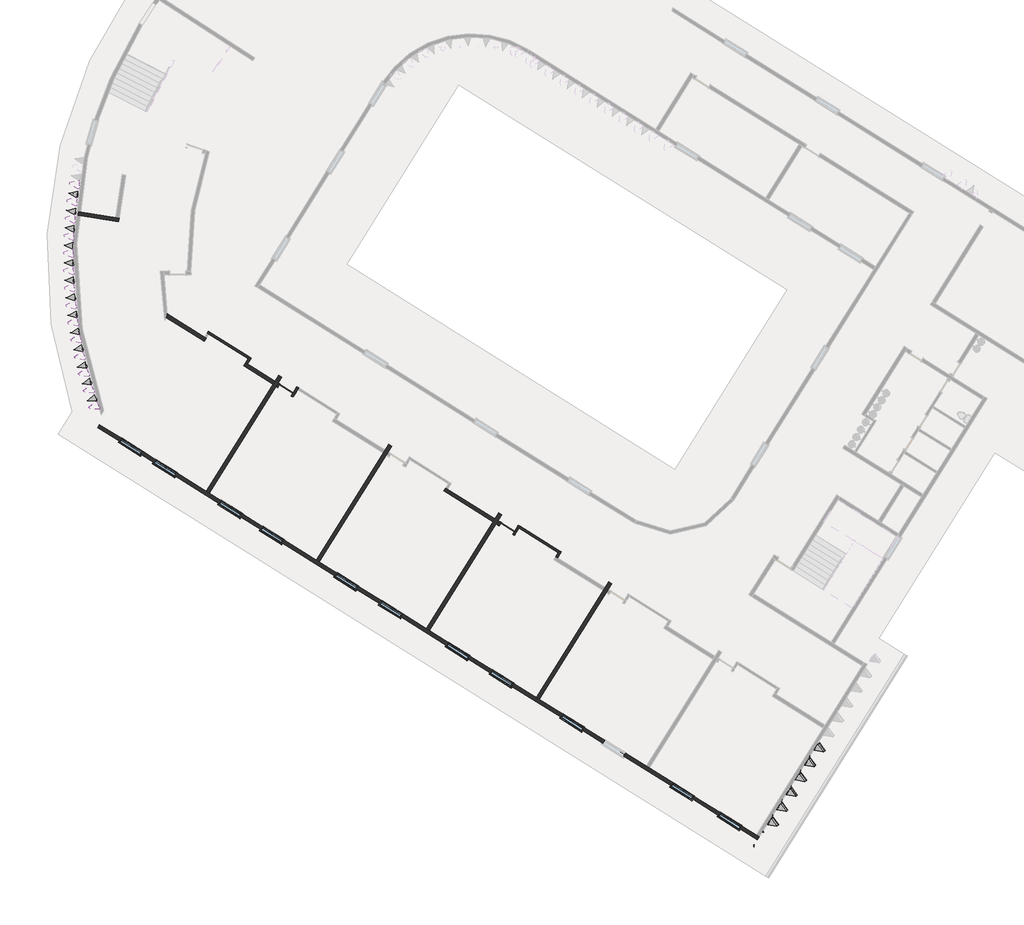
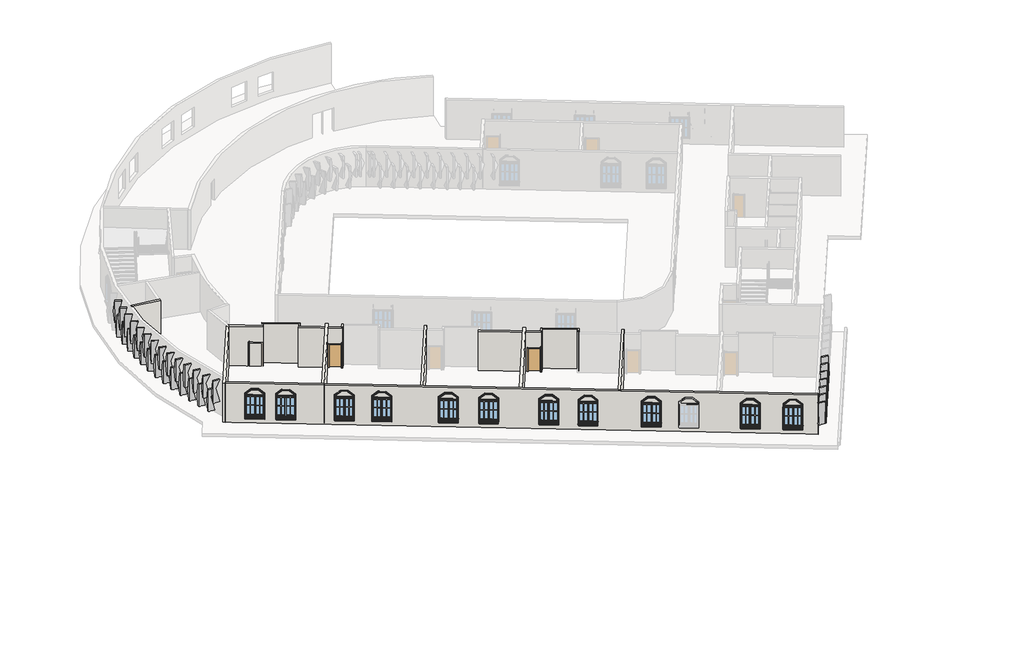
# One storey, part 1 of 7: 40 plates, 17 walls, 11 windows, 2 doors.
"""IFC4 building model written with IfcOpenShell, lengths in millimetres."""

from ifc_helpers import new_model, si_unit, frame, origin, place, context, project, spatial, polyline, circle_curve, outline, extrude, faceted_brep, transform, mapped, element, save
from ifc_brep_helpers import plane_surface, cylinder_surface, revolved_surface, advanced_brep
from components import m_single_flush_0915_x_2134mm_727434cd, plate_91021fb5, plate_51c6a2b6, m_window_casement_double_1400_x_1800mm_877d247a

model = new_model("IFC4")

# Units and contexts
model_context = context("Model", 3, world=origin())
ifc_project = project(units=[si_unit("LENGTHUNIT", "METRE", prefix="MILLI")], contexts=[model_context])

# Site, building, storey
site = spatial("IfcSite", under=ifc_project)
building = spatial("IfcBuilding", under=site)
storey = spatial("IfcBuildingStorey", under=building, Name="\u200fطبقه اول", Elevation=3600.0)

# Doors
placement = place(None, origin())
m_single_flush_0915_x_2134mm_shape = m_single_flush_0915_x_2134mm_727434cd(model_context)
element("IfcDoor", 1, ObjectType="M_Single-Flush : 0915 x 2134mm", at=placement, inside=storey, context=model_context, shape_type="MappedRepresentation", body=[
    mapped(m_single_flush_0915_x_2134mm_shape, transform((27835.8534979, -49819.8419864, 3600.0), x_axis=(-0.8480480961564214, 0.5299192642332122, 0.0), y_axis=(-0.5299192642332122, -0.8480480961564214, 0.0), z_axis=(0.0, 0.0, 1.0))),
])
element("IfcDoor", 2, ObjectType="M_Single-Flush : 0915 x 2134mm", at=placement, inside=storey, context=model_context, shape_type="MappedRepresentation", body=[
    mapped(m_single_flush_0915_x_2134mm_shape, transform((15199.9368652, -41924.0449493, 3600.0), x_axis=(-0.8480480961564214, 0.5299192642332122, 0.0), y_axis=(-0.5299192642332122, -0.8480480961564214, 0.0), z_axis=(0.0, 0.0, 1.0))),
])

# Plates
plate_shape = plate_91021fb5(model_context)
element("IfcPlate", 3, ObjectType="مدل پارامتریک کصینوس دار : مدل پارامتریک کصینوس دار", at=placement, inside=storey, context=model_context, shape_type="MappedRepresentation", body=[
    mapped(plate_shape, transform((41918.8346229, -68935.4876072, 1755.2367897), x_axis=(0.0, 0.0, 1.0), y_axis=(0.5299192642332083, 0.8480480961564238, 0.0), z_axis=(-0.8480480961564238, 0.5299192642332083, 0.0))),
])
element("IfcPlate", 4, ObjectType="مدل پارامتریک کصینوس دار : مدل پارامتریک کصینوس دار", at=placement, inside=storey, context=model_context, shape_type="MappedRepresentation", body=[
    mapped(plate_shape, transform((42183.794255, -68511.4635591, 755.2367897), x_axis=(0.0, 0.0, 1.0), y_axis=(0.5299192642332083, 0.8480480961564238, 0.0), z_axis=(-0.8480480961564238, 0.5299192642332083, 0.0))),
])
element("IfcPlate", 5, ObjectType="مدل پارامتریک کصینوس دار : مدل پارامتریک کصینوس دار", at=placement, inside=storey, context=model_context, shape_type="MappedRepresentation", body=[
    mapped(plate_shape, transform((42448.7538871, -68087.439511, 1755.2367897), x_axis=(0.0, 0.0, 1.0), y_axis=(0.5299192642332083, 0.8480480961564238, 0.0), z_axis=(-0.8480480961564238, 0.5299192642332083, 0.0))),
])
element("IfcPlate", 6, ObjectType="مدل پارامتریک کصینوس دار : مدل پارامتریک کصینوس دار", at=placement, inside=storey, context=model_context, shape_type="MappedRepresentation", body=[
    mapped(plate_shape, transform((42713.7135192, -67663.4154629, 755.2367897), x_axis=(0.0, 0.0, 1.0), y_axis=(0.5299192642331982, 0.8480480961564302, 0.0), z_axis=(-0.8480480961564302, 0.5299192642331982, 0.0))),
])
element("IfcPlate", 7, ObjectType="مدل پارامتریک کصینوس دار : مدل پارامتریک کصینوس دار", at=placement, inside=storey, context=model_context, shape_type="MappedRepresentation", body=[
    mapped(plate_shape, transform((42978.6731514, -67239.3914149, 1755.2367897), x_axis=(0.0, 0.0, 1.0), y_axis=(0.5299192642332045, 0.8480480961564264, 0.0), z_axis=(-0.8480480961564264, 0.5299192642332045, 0.0))),
])
element("IfcPlate", 8, ObjectType="مدل پارامتریک کصینوس دار : مدل پارامتریک کصینوس دار", at=placement, inside=storey, context=model_context, shape_type="MappedRepresentation", body=[
    mapped(plate_shape, transform((43243.6327835, -66815.3673668, 755.2367897), x_axis=(0.0, 0.0, 1.0), y_axis=(0.5299192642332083, 0.8480480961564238, 0.0), z_axis=(-0.8480480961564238, 0.5299192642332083, 0.0))),
])
element("IfcPlate", 9, ObjectType="مدل پارامتریک کصینوس دار : مدل پارامتریک کصینوس دار", at=placement, inside=storey, context=model_context, shape_type="MappedRepresentation", body=[
    mapped(plate_shape, transform((43508.5924156, -66391.3433187, 1755.2367897), x_axis=(0.0, 0.0, 1.0), y_axis=(0.5299192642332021, 0.8480480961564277, 0.0), z_axis=(-0.8480480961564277, 0.5299192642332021, 0.0))),
])
element("IfcPlate", 10, ObjectType="مدل پارامتریک کصینوس دار : مدل پارامتریک کصینوس دار", at=placement, inside=storey, context=model_context, shape_type="MappedRepresentation", body=[
    mapped(plate_shape, transform((43773.5520477, -65967.3192706, 755.2367897), x_axis=(0.0, 0.0, 1.0), y_axis=(0.5299192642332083, 0.8480480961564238, 0.0), z_axis=(-0.8480480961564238, 0.5299192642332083, 0.0))),
])
element("IfcPlate", 11, ObjectType="مدل پارامتریک کصینوس دار : مدل پارامتریک کصینوس دار", at=placement, inside=storey, context=model_context, shape_type="MappedRepresentation", body=[
    mapped(plate_shape, transform((44038.5116798, -65543.2952225, 1755.2367897), x_axis=(0.0, 0.0, 1.0), y_axis=(0.5299192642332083, 0.8480480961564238, 0.0), z_axis=(-0.8480480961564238, 0.5299192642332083, 0.0))),
])
element("IfcPlate", 12, ObjectType="مدل پارامتریک کصینوس دار : مدل پارامتریک کصینوس دار", at=placement, inside=storey, context=model_context, shape_type="MappedRepresentation", body=[
    mapped(plate_shape, transform((44303.4713119, -65119.2711745, 755.2367897), x_axis=(0.0, 0.0, 1.0), y_axis=(0.5299192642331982, 0.8480480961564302, 0.0), z_axis=(-0.8480480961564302, 0.5299192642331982, 0.0))),
])
element("IfcPlate", 13, ObjectType="مدل پارامتریک کصینوس دار : مدل پارامتریک کصینوس دار", at=placement, inside=storey, context=model_context, shape_type="MappedRepresentation", body=[
    mapped(plate_shape, transform((44568.4309441, -64695.2471264, 1755.2367897), x_axis=(0.0, 0.0, 1.0), y_axis=(0.5299192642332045, 0.8480480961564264, 0.0), z_axis=(-0.8480480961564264, 0.5299192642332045, 0.0))),
])
element("IfcPlate", 14, ObjectType="مدل پارامتریک کصینوس دار : مدل پارامتریک کصینوس دار", at=placement, inside=storey, context=model_context, shape_type="MappedRepresentation", body=[
    mapped(plate_shape, transform((44833.3905762, -64271.2230783, 755.2367897), x_axis=(0.0, 0.0, 1.0), y_axis=(0.5299192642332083, 0.8480480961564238, 0.0), z_axis=(-0.8480480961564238, 0.5299192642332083, 0.0))),
])
element("IfcPlate", 15, ObjectType="مدل پارامتریک کصینوس دار : مدل پارامتریک کصینوس دار", at=placement, inside=storey, context=model_context, shape_type="MappedRepresentation", body=[
    mapped(plate_shape, transform((41388.9153587, -69783.5357033, 1755.2367897), x_axis=(0.0, 0.0, 1.0), y_axis=(0.5299192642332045, 0.8480480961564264, 0.0), z_axis=(-0.8480480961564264, 0.5299192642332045, 0.0))),
])
plate_2_shape = plate_51c6a2b6(model_context)
element("IfcPlate", 16, ObjectType="مدل پارامتریک کصینوس دار : مدل پارامتریک کصینوس دار", at=placement, inside=storey, context=model_context, shape_type="MappedRepresentation", body=[
    mapped(plate_2_shape, transform((4717.597283, -44893.7210796, 1850.0), x_axis=(0.0, 0.0, 1.0), y_axis=(0.33370881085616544, -0.9426762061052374, 0.0), z_axis=(0.9426762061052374, 0.33370881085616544, 0.0))),
])
element("IfcPlate", 17, ObjectType="مدل پارامتریک کصینوس دار : مدل پارامتریک کصینوس دار", at=placement, inside=storey, context=model_context, shape_type="MappedRepresentation", body=[
    mapped(plate_2_shape, transform((4518.7959308, -44433.3710236, 850.0), x_axis=(0.0, 0.0, 1.0), y_axis=(0.31544909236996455, -0.9489425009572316, 0.0), z_axis=(0.9489425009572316, 0.31544909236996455, 0.0))),
])
element("IfcPlate", 18, ObjectType="مدل پارامتریک کصینوس دار : مدل پارامتریک کصینوس دار", at=placement, inside=storey, context=model_context, shape_type="MappedRepresentation", body=[
    mapped(plate_2_shape, transform((4328.9182762, -43969.2690648, 1850.0), x_axis=(0.0, 0.0, 1.0), y_axis=(0.297071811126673, -0.9548551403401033, 0.0), z_axis=(0.9548551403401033, 0.297071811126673, 0.0))),
])
element("IfcPlate", 19, ObjectType="مدل پارامتریک کصینوس دار : مدل پارامتریک کصینوس دار", at=placement, inside=storey, context=model_context, shape_type="MappedRepresentation", body=[
    mapped(plate_2_shape, transform((4148.0350837, -43501.5881667, 850.0), x_axis=(0.0, 0.0, 1.0), y_axis=(0.2785838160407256, -0.9604119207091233, 0.0), z_axis=(0.9604119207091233, 0.2785838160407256, 0.0))),
])
element("IfcPlate", 20, ObjectType="مدل پارامتریک کصینوس دار : مدل پارامتریک کصینوس دار", at=placement, inside=storey, context=model_context, shape_type="MappedRepresentation", body=[
    mapped(plate_2_shape, transform((3976.2137655, -43030.5026263, 1850.0), x_axis=(0.0, 0.0, 1.0), y_axis=(0.25999199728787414, -0.9656107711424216, 0.0), z_axis=(0.9656107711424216, 0.25999199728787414, 0.0))),
])
element("IfcPlate", 21, ObjectType="مدل پارامتریک کصینوس دار : مدل پارامتریک کصینوس دار", at=placement, inside=storey, context=model_context, shape_type="MappedRepresentation", body=[
    mapped(plate_2_shape, transform((3813.5183565, -42556.1880096, 850.0), x_axis=(0.0, 0.0, 1.0), y_axis=(0.24130328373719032, -0.9704497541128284, 0.0), z_axis=(0.9704497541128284, 0.24130328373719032, 0.0))),
])
element("IfcPlate", 22, ObjectType="مدل پارامتریک کصینوس دار : مدل پارامتریک کصینوس دار", at=placement, inside=storey, context=model_context, shape_type="MappedRepresentation", body=[
    mapped(plate_2_shape, transform((3660.0094908, -42078.8210858, 1850.0), x_axis=(0.0, 0.0, 1.0), y_axis=(0.2225246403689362, -0.9749270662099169, 0.0), z_axis=(0.9749270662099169, 0.2225246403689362, 0.0))),
])
element("IfcPlate", 23, ObjectType="مدل پارامتریک کصینوس دار : مدل پارامتریک کصینوس دار", at=placement, inside=storey, context=model_context, shape_type="MappedRepresentation", body=[
    mapped(plate_2_shape, transform((3515.7443786, -41598.5797619, 850.0), x_axis=(0.0, 0.0, 1.0), y_axis=(0.2036630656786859, -0.9790410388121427, 0.0), z_axis=(0.9790410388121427, 0.2036630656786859, 0.0))),
])
element("IfcPlate", 24, ObjectType="مدل پارامتریک کصینوس دار : مدل پارامتریک کصینوس دار", at=placement, inside=storey, context=model_context, shape_type="MappedRepresentation", body=[
    mapped(plate_2_shape, transform((3380.7767851, -41115.643016, 1850.0), x_axis=(0.0, 0.0, 1.0), y_axis=(0.18472558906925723, -0.9827901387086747, 0.0), z_axis=(0.9827901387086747, 0.18472558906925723, 0.0))),
])
element("IfcPlate", 25, ObjectType="مدل پارامتریک کصینوس دار : مدل پارامتریک کصینوس دار", at=placement, inside=storey, context=model_context, shape_type="MappedRepresentation", body=[
    mapped(plate_2_shape, transform((3255.1570106, -40630.1908309, 850.0), x_axis=(0.0, 0.0, 1.0), y_axis=(0.16571926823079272, -0.9861729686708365, 0.0), z_axis=(0.9861729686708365, 0.16571926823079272, 0.0))),
])
element("IfcPlate", 26, ObjectType="مدل پارامتریک کصینوس دار : مدل پارامتریک کصینوس دار", at=placement, inside=storey, context=model_context, shape_type="MappedRepresentation", body=[
    mapped(plate_2_shape, transform((3138.9318715, -40142.4041267, 1850.0), x_axis=(0.0, 0.0, 1.0), y_axis=(0.1466511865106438, -0.9891882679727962, 0.0), z_axis=(0.9891882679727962, 0.1466511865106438, 0.0))),
])
element("IfcPlate", 27, ObjectType="مدل پارامتریک کصینوس دار : مدل پارامتریک کصینوس دار", at=placement, inside=storey, context=model_context, shape_type="MappedRepresentation", body=[
    mapped(plate_2_shape, transform((3032.1446831, -39652.4646935, 850.0), x_axis=(0.0, 0.0, 1.0), y_axis=(0.12752845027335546, -0.9918349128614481, 0.0), z_axis=(0.9918349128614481, 0.12752845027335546, 0.0))),
])
element("IfcPlate", 28, ObjectType="مدل پارامتریک کصینوس دار : مدل پارامتریک کصینوس دار", at=placement, inside=storey, context=model_context, shape_type="MappedRepresentation", body=[
    mapped(plate_2_shape, transform((2934.8352432, -39160.5551239, 1850.0), x_axis=(0.0, 0.0, 1.0), y_axis=(0.10835818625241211, -0.9941119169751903, 0.0), z_axis=(0.9941119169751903, 0.10835818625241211, 0.0))),
])
element("IfcPlate", 29, ObjectType="مدل پارامتریک کصینوس دار : مدل پارامتریک کصینوس دار", at=placement, inside=storey, context=model_context, shape_type="MappedRepresentation", body=[
    mapped(plate_2_shape, transform((2847.0398175, -38666.8587445, 850.0), x_axis=(0.0, 0.0, 1.0), y_axis=(0.08914753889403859, -0.9960184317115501, 0.0), z_axis=(0.9960184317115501, 0.08914753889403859, 0.0))),
])
element("IfcPlate", 30, ObjectType="مدل پارامتریک کصینوس دار : مدل پارامتریک کصینوس دار", at=placement, inside=storey, context=model_context, shape_type="MappedRepresentation", body=[
    mapped(plate_2_shape, transform((2768.7911259, -38171.559548, 1850.0), x_axis=(0.0, 0.0, 1.0), y_axis=(0.06990366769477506, -0.9975537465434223, 0.0), z_axis=(0.9975537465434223, 0.06990366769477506, 0.0))),
])
element("IfcPlate", 31, ObjectType="مدل پارامتریک کصینوس دار : مدل پارامتریک کصینوس دار", at=placement, inside=storey, context=model_context, shape_type="MappedRepresentation", body=[
    mapped(plate_2_shape, transform((2700.1183303, -37674.8421244, 850.0), x_axis=(0.0, 0.0, 1.0), y_axis=(0.05063374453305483, -0.99871728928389, 0.0), z_axis=(0.99871728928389, 0.05063374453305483, 0.0))),
])
element("IfcPlate", 32, ObjectType="مدل پارامتریک کصینوس دار : مدل پارامتریک کصینوس دار", at=placement, inside=storey, context=model_context, shape_type="MappedRepresentation", body=[
    mapped(plate_2_shape, transform((2641.0470242, -37176.8915922, 1850.0), x_axis=(0.0, 0.0, 1.0), y_axis=(0.03134495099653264, -0.9995086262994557, 0.0), z_axis=(0.9995086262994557, 0.03134495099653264, 0.0))),
])
element("IfcPlate", 33, ObjectType="مدل پارامتریک کصینوس دار : مدل پارامتریک کصینوس دار", at=placement, inside=storey, context=model_context, shape_type="MappedRepresentation", body=[
    mapped(plate_2_shape, transform((2591.5992222, -36677.8935294, 850.0), x_axis=(0.0, 0.0, 1.0), y_axis=(0.01204447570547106, -0.9999274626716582, 0.0), z_axis=(0.9999274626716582, 0.01204447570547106, 0.0))),
])
element("IfcPlate", 34, ObjectType="مدل پارامتریک کصینوس دار : مدل پارامتریک کصینوس دار", at=placement, inside=storey, context=model_context, shape_type="MappedRepresentation", body=[
    mapped(plate_2_shape, transform((2551.793353, -36178.0339045, 1850.0), x_axis=(0.0, 0.0, 1.0), y_axis=(-0.0072604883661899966, -0.9999736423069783, 0.0), z_axis=(0.9999736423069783, -0.0072604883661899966, 0.0))),
])
element("IfcPlate", 35, ObjectType="مدل پارامتریک کصینوس دار : مدل پارامتریک کصینوس دار", at=placement, inside=storey, context=model_context, shape_type="MappedRepresentation", body=[
    mapped(plate_2_shape, transform((2521.6442514, -35677.4990072, 850.0), x_axis=(0.0, 0.0, 1.0), y_axis=(-0.026562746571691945, -0.9996471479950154, 0.0), z_axis=(0.9996471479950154, -0.026562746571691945, 0.0))),
])
element("IfcPlate", 36, ObjectType="مدل پارامتریک کصینوس دار : مدل پارامتریک کصینوس دار", at=placement, inside=storey, context=model_context, shape_type="MappedRepresentation", body=[
    mapped(plate_2_shape, transform((2501.1631535, -35176.4753786, 1850.0), x_axis=(0.0, 0.0, 1.0), y_axis=(-0.045855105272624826, -0.9989481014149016, 0.0), z_axis=(0.9989481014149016, -0.045855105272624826, 0.0))),
])
element("IfcPlate", 37, ObjectType="مدل پارامتریک کصینوس دار : مدل پارامتریک کصینوس دار", at=placement, inside=storey, context=model_context, shape_type="MappedRepresentation", body=[
    mapped(plate_2_shape, transform((2490.3576924, -34675.1497421, 850.0), x_axis=(0.0, 0.0, 1.0), y_axis=(-0.06513037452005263, -0.9978767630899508, 0.0), z_axis=(0.9978767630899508, -0.06513037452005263, 0.0))),
])
element("IfcPlate", 38, ObjectType="مدل پارامتریک کصینوس دار : مدل پارامتریک کصینوس دار", at=placement, inside=storey, context=model_context, shape_type="MappedRepresentation", body=[
    mapped(plate_2_shape, transform((2489.2318949, -34173.7089337, 1850.0), x_axis=(0.0, 0.0, 1.0), y_axis=(-0.08438137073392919, -0.9964335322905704, 0.0), z_axis=(0.9964335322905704, -0.08438137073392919, 0.0))),
])
element("IfcPlate", 39, ObjectType="مدل پارامتریک کصینوس دار : مدل پارامتریک کصینوس دار", at=placement, inside=storey, context=model_context, shape_type="MappedRepresentation", body=[
    mapped(plate_2_shape, transform((2497.7861808, -33672.3398322, 850.0), x_axis=(0.0, 0.0, 1.0), y_axis=(-0.10360091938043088, -0.994618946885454, 0.0), z_axis=(0.994618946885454, -0.10360091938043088, 0.0))),
])
element("IfcPlate", 40, ObjectType="مدل پارامتریک کصینوس دار : مدل پارامتریک کصینوس دار", at=placement, inside=storey, context=model_context, shape_type="MappedRepresentation", body=[
    mapped(plate_2_shape, transform((2516.0173619, -33171.2292896, 1850.0), x_axis=(0.0, 0.0, 1.0), y_axis=(-0.12278185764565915, -0.9924336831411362, 0.0), z_axis=(0.9924336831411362, -0.12278185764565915, 0.0))),
])
element("IfcPlate", 41, ObjectType="مدل پارامتریک کصینوس دار : مدل پارامتریک کصینوس دار", at=placement, inside=storey, context=model_context, shape_type="MappedRepresentation", body=[
    mapped(plate_2_shape, transform((2543.9186439, -32670.5640619, 850.0), x_axis=(0.0, 0.0, 1.0), y_axis=(-0.1419170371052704, -0.9898785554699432, 0.0), z_axis=(0.9898785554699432, -0.1419170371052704, 0.0))),
])
element("IfcPlate", 42, ObjectType="مدل پارامتریک کصینوس دار : مدل پارامتریک کصینوس دار", at=placement, inside=storey, context=model_context, shape_type="MappedRepresentation", body=[
    mapped(plate_2_shape, transform((2581.4796282, -32170.5307388, 1850.0), x_axis=(0.0, 0.0, 1.0), y_axis=(-0.1609993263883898, -0.9869545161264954, 0.0), z_axis=(0.9869545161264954, -0.1609993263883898, 0.0))),
])

# Walls
element("IfcWall", 43, ObjectType="Generic - 200mm", at=placement, inside=storey, context=model_context, shape_type="AdvancedBrep", body=[
    advanced_brep(
    [(8398.8638738, -37792.1807172, 3600.0), (10575.3677311, -39152.2112719, 3600.0), (10575.3677311, -39152.2112719, 7200.0), (8398.8638738, -37792.1807172, 7200.0), (8445.8401379, -37585.6990642, 3600.0), (8445.8401379, -37585.6990642, 7200.0), (10576.19362, -38916.8916639, 7200.0), (10681.3515839, -38982.6016527, 7200.0), (10681.3515839, -38982.6016527, 3600.0), (10576.19362, -38916.8916639, 3600.0), (8461.2110478, -37692.4043817, 3600.0), (8461.2110478, -37692.4043817, 7200.0)],
    [
        (0, 1),
        (1, 2),
        (2, 3),
        (3, 0),
        (4, 5),
        (5, 6),
        (6, 7),
        (7, 8),
        (8, 9),
        (9, 4),
        (0, 10),
        (10, 4, circle_curve(frame((29284.4488792, -34638.3554793, 3600.0), z_axis=(0.0, 0.0, -1.0), x_axis=(0.02110900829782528, -0.9997771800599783, 0.0)), 21046.0078989)),
        (8, 1),
        (2, 7),
        (5, 11, circle_curve(frame((29284.4488792, -34638.3554793, 7200.0), z_axis=(0.0, 0.0, 1.0), x_axis=(0.02110900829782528, -0.9997771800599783, 0.0)), 21046.0078989)),
        (11, 3),
        (11, 10),
    ],
    [
        plane_surface(frame((53742.4931599, -66126.0249624, 3600.0), z_axis=(-0.5299192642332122, -0.8480480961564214, 0.0), x_axis=(0.8480480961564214, -0.5299192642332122, 0.0))),
        plane_surface(frame((53848.4770127, -65956.4153432, 3600.0), z_axis=(0.5299192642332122, 0.8480480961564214, 0.0), x_axis=(-0.8480480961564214, 0.5299192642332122, 0.0))),
        plane_surface(frame((8300.4134234, -37730.662048, 3600.0), z_axis=(0.0, 0.0, -1.0), x_axis=(0.5299192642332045, 0.8480480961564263, 0.0))),
        plane_surface(frame((10522.7887491, -39119.3562775, 7200.0), z_axis=(0.0, 0.0, 1.0000000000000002), x_axis=(0.5299192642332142, 0.8480480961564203, 0.0))),
        plane_surface(frame((10681.3515839, -38982.6016527, 3600.0), z_axis=(0.8480480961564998, -0.5299192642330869, 0.0), x_axis=(0.5299192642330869, 0.8480480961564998, 0.0))),
        plane_surface(frame((6495.8321463, -40837.6681004, 3420.0), z_axis=(-0.8480480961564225, 0.5299192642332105, 0.0), x_axis=(-0.5299192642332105, -0.8480480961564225, 0.0))),
        cylinder_surface(frame((29284.4488792, -34638.3554793, 3420.0), z_axis=(0.0, 0.0, 1.0), x_axis=(0.02110900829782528, -0.9997771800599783, 0.0)), 21046.0078989),
    ],
    [
        (0, [[1, 2, 3, 4]]),
        (1, [[5, 6, 7, 8, 9, 10]]),
        (2, [[-1, 11, 12, -10, -9, 13]]),
        (3, [[-3, 14, -7, -6, 15, 16]]),
        (4, [[-2, -13, -8, -14]]),
        (5, [[-4, -16, 17, -11]]),
        (6, [[-15, -5, -12, -17]]),
    ],
),
])
element("IfcWall", 44, ObjectType="Generic - 200mm", at=placement, inside=storey, context=model_context, shape_type="Brep", body=[
    faceted_brep([(3379.4283717, -31948.7903107, 3600.0), (5670.7915732, -32311.7065889, 3600.0), (5670.7915732, -32311.7065889, 7200.0), (3379.4283717, -31948.7903107, 7200.0), (3410.7152647, -31751.2526425, 3600.0), (3410.7152647, -31751.2526425, 7200.0), (5504.5407981, -32082.8820278, 7200.0), (5702.0784662, -32114.1689208, 7200.0), (5702.0784662, -32114.1689208, 3600.0), (5504.5407981, -32082.8820278, 3600.0)], [[[0, 1, 2, 3]], [[4, 5, 6, 7, 8, 9]], [[1, 0, 4, 9, 8]], [[3, 2, 7, 6, 5]], [[0, 3, 5, 4]], [[2, 1, 8, 7]]]),
])
element("IfcWall", 45, ObjectType="Generic - 200mm", at=placement, inside=storey, context=model_context, shape_type="AdvancedBrep", body=[
    advanced_brep(
    [(4477.4613184, -44067.7366287, 3600.0), (4583.4451713, -43898.1270095, 3600.0), (8298.5516912, -37952.7137665, 3600.0), (8298.5516912, -37952.7137665, 7200.0), (4583.4451713, -43898.1270095, 7200.0), (4477.4613184, -44067.7366287, 7200.0), (4307.8516992, -43961.7527759, 3600.0), (4307.8516992, -43961.7527759, 7200.0), (4699.4334687, -43335.0909491, 7200.0), (4833.0156697, -43121.3147404, 7200.0), (8252.7703675, -37648.5632167, 7200.0), (8252.7703675, -37648.5632167, 3600.0), (4833.0156697, -43121.3147404, 3600.0), (4699.4334687, -43335.0909491, 3600.0)],
    [
        (0, 1),
        (1, 2),
        (2, 3),
        (3, 4),
        (4, 5),
        (5, 0),
        (6, 7),
        (7, 8),
        (8, 9),
        (9, 10),
        (10, 11),
        (11, 12),
        (12, 13),
        (13, 6),
        (0, 6),
        (11, 2, circle_curve(frame((29284.4488792, -34638.3554793, 3600.0), z_axis=(0.0, 0.0, 1.0), x_axis=(1.0, 0.0, 0.0)), 21246.0078989)),
        (3, 10, circle_curve(frame((29284.4488792, -34638.3554793, 7200.0), z_axis=(0.0, 0.0, -1.0), x_axis=(1.0, 0.0, 0.0)), 21246.0078989)),
        (7, 5),
    ],
    [
        plane_surface(frame((4583.4451713, -43898.1270095, 3600.0), z_axis=(0.8480480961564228, -0.5299192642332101, 0.0), x_axis=(0.5299192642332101, 0.8480480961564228, 0.0))),
        plane_surface(frame((4413.835552, -43792.1431566, 3600.0), z_axis=(-0.8480480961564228, 0.5299192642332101, 0.0), x_axis=(-0.5299192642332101, -0.8480480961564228, 0.0))),
        plane_surface(frame((4530.4532449, -43982.9318191, 3600.0), z_axis=(0.0, 0.0, -1.0), x_axis=(-0.8480480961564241, 0.5299192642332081, 0.0))),
        plane_surface(frame((8441.7694817, -37723.5173913, 7200.0), z_axis=(0.0, 0.0, 1.0), x_axis=(-0.8480480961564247, 0.5299192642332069, 0.0))),
        plane_surface(frame((49821.0906045, -72401.580874, 3600.0), z_axis=(-0.5299192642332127, -0.8480480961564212, 0.0), x_axis=(0.8480480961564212, -0.5299192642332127, 0.0))),
        revolved_surface(polyline([(50530.4567781, -34638.3554793, 7200.0), (50530.4567781, -34638.3554793, 3600.0)]), (29284.4488792, -34638.3554793, 3600.0), (0.0, 0.0, 1.0)),
    ],
    [
        (0, [[1, 2, 3, 4, 5, 6]]),
        (1, [[7, 8, 9, 10, 11, 12, 13, 14]]),
        (2, [[-2, -1, 15, -14, -13, -12, 16]]),
        (3, [[-5, -4, 17, -10, -9, -8, 18]]),
        (4, [[-6, -18, -7, -15]]),
        (5, [[-3, -16, -11, -17]]),
    ],
),
])
element("IfcWall", 46, ObjectType="Generic - 200mm", at=placement, inside=storey, context=model_context, shape_type="Brep", body=[
    faceted_brep([(42236.7806406, -67426.5423414, 3600.0), (42067.1710214, -67320.5584886, 3600.0), (35961.2247291, -63505.1397861, 3600.0), (35791.6151098, -63399.1559333, 3600.0), (29685.6688175, -59583.7372308, 3600.0), (29516.0591983, -59477.7533779, 3600.0), (23410.1129059, -55662.3346755, 3600.0), (23240.5032867, -55556.3508226, 3600.0), (17134.5569944, -51740.9321201, 3600.0), (16964.9473752, -51634.9482673, 3600.0), (10859.0010828, -47819.5295648, 3600.0), (10689.3914636, -47713.545712, 3600.0), (4583.4451713, -43898.1270095, 3600.0), (4583.4451713, -43898.1270095, 7200.0), (10689.3914636, -47713.545712, 7200.0), (10859.0010828, -47819.5295648, 7200.0), (16964.9473752, -51634.9482673, 7200.0), (17134.5569944, -51740.9321201, 7200.0), (23240.5032867, -55556.3508226, 7200.0), (23410.1129059, -55662.3346755, 7200.0), (29516.0591983, -59477.7533779, 7200.0), (29685.6688175, -59583.7372308, 7200.0), (35791.6151098, -63399.1559333, 7200.0), (35961.2247291, -63505.1397861, 7200.0), (42067.1710214, -67320.5584886, 7200.0), (42236.7806406, -67426.5423414, 7200.0), (41219.1229252, -66790.6392244, 6000.0), (40031.8555906, -66048.7522544, 6000.0), (40031.8555906, -66048.7522544, 4200.0), (41219.1229252, -66790.6392244, 4200.0), (38505.3690175, -65094.8975788, 6000.0), (37318.1016829, -64353.0106089, 6000.0), (37318.1016829, -64353.0106089, 4200.0), (38505.3690175, -65094.8975788, 4200.0), (34604.3477752, -62657.2689633, 6000.0), (33417.0804406, -61915.3819934, 6000.0), (33417.0804406, -61915.3819934, 4200.0), (34604.3477752, -62657.2689633, 4200.0), (32229.813106, -61173.4950235, 6000.0), (31042.5457714, -60431.6080536, 6000.0), (31042.5457714, -60431.6080536, 4200.0), (32229.813106, -61173.4950235, 4200.0), (28201.5846492, -58656.3785184, 6000.0), (27014.3173146, -57914.4915485, 6000.0), (27014.3173146, -57914.4915485, 4200.0), (28201.5846492, -58656.3785184, 4200.0), (25699.8427656, -57093.1166889, 6000.0), (24512.5754309, -56351.229719, 6000.0), (24512.5754309, -56351.229719, 4200.0), (25699.8427656, -57093.1166889, 4200.0), (21883.6263329, -54708.4799998, 6000.0), (20696.3589982, -53966.5930299, 6000.0), (20696.3589982, -53966.5930299, 4200.0), (21883.6263329, -54708.4799998, 4200.0), (19339.4820444, -53118.7222071, 6000.0), (18152.2147098, -52376.8352372, 6000.0), (18152.2147098, -52376.8352372, 4200.0), (19339.4820444, -53118.7222071, 4200.0), (15099.2415636, -50469.125886, 6000.0), (13911.974229, -49727.2389161, 6000.0), (13911.974229, -49727.2389161, 4200.0), (15099.2415636, -50469.125886, 4200.0), (12724.7068944, -48985.3519461, 6000.0), (11537.4395598, -48243.4649762, 6000.0), (11537.4395598, -48243.4649762, 4200.0), (12724.7068944, -48985.3519461, 4200.0), (8993.2952713, -46653.7071835, 6000.0), (7806.0279367, -45911.8202136, 6000.0), (7806.0279367, -45911.8202136, 4200.0), (8993.2952713, -46653.7071835, 4200.0), (7042.7846501, -45434.8928758, 6000.0), (5855.5173155, -44693.0059058, 6000.0), (5855.5173155, -44693.0059058, 4200.0), (7042.7846501, -45434.8928758, 4200.0), (42130.7967878, -67596.1519607, 3600.0), (42130.7967878, -67596.1519607, 7200.0), (4477.4613184, -44067.7366287, 7200.0), (4477.4613184, -44067.7366287, 3600.0), (41113.1390724, -66960.2488436, 6000.0), (41113.1390724, -66960.2488436, 4200.0), (39925.8717378, -66218.3618737, 4200.0), (39925.8717378, -66218.3618737, 6000.0), (38399.3851647, -65264.507198, 6000.0), (38399.3851647, -65264.507198, 4200.0), (37212.1178301, -64522.6202281, 4200.0), (37212.1178301, -64522.6202281, 6000.0), (34498.3639224, -62826.8785826, 6000.0), (34498.3639224, -62826.8785826, 4200.0), (33311.0965877, -62084.9916126, 4200.0), (33311.0965877, -62084.9916126, 6000.0), (32123.8292531, -61343.1046427, 6000.0), (32123.8292531, -61343.1046427, 4200.0), (30936.5619185, -60601.2176728, 4200.0), (30936.5619185, -60601.2176728, 6000.0), (28095.6007964, -58825.9881376, 6000.0), (28095.6007964, -58825.9881376, 4200.0), (26908.3334618, -58084.1011677, 4200.0), (26908.3334618, -58084.1011677, 6000.0), (25593.8589127, -57262.7263081, 6000.0), (25593.8589127, -57262.7263081, 4200.0), (24406.5915781, -56520.8393382, 4200.0), (24406.5915781, -56520.8393382, 6000.0), (21777.64248, -54878.0896191, 6000.0), (21777.64248, -54878.0896191, 4200.0), (20590.3751454, -54136.2026491, 4200.0), (20590.3751454, -54136.2026491, 6000.0), (19233.4981915, -53288.3318264, 6000.0), (19233.4981915, -53288.3318264, 4200.0), (18046.2308569, -52546.4448565, 4200.0), (18046.2308569, -52546.4448565, 6000.0), (14993.2577108, -50638.7355052, 6000.0), (14993.2577108, -50638.7355052, 4200.0), (13805.9903761, -49896.8485353, 4200.0), (13805.9903761, -49896.8485353, 6000.0), (12618.7230415, -49154.9615654, 6000.0), (12618.7230415, -49154.9615654, 4200.0), (11431.4557069, -48413.0745954, 4200.0), (11431.4557069, -48413.0745954, 6000.0), (8887.3114184, -46823.3168027, 6000.0), (8887.3114184, -46823.3168027, 4200.0), (7700.0440838, -46081.4298328, 4200.0), (7700.0440838, -46081.4298328, 6000.0), (6936.8007973, -45604.502495, 6000.0), (6936.8007973, -45604.502495, 4200.0), (5749.5334627, -44862.6155251, 4200.0), (5749.5334627, -44862.6155251, 6000.0)], [[[0, 1, 2, 3, 4, 5, 6, 7, 8, 9, 10, 11, 12, 13, 14, 15, 16, 17, 18, 19, 20, 21, 22, 23, 24, 25], [26, 27, 28, 29], [30, 31, 32, 33], [34, 35, 36, 37], [38, 39, 40, 41], [42, 43, 44, 45], [46, 47, 48, 49], [50, 51, 52, 53], [54, 55, 56, 57], [58, 59, 60, 61], [62, 63, 64, 65], [66, 67, 68, 69], [70, 71, 72, 73]], [[74, 75, 76, 77], [78, 79, 80, 81], [82, 83, 84, 85], [86, 87, 88, 89], [90, 91, 92, 93], [94, 95, 96, 97], [98, 99, 100, 101], [102, 103, 104, 105], [106, 107, 108, 109], [110, 111, 112, 113], [114, 115, 116, 117], [118, 119, 120, 121], [122, 123, 124, 125]], [[12, 11, 10, 9, 8, 7, 6, 5, 4, 3, 2, 1, 0, 74, 77]], [[25, 24, 23, 22, 21, 20, 19, 18, 17, 16, 15, 14, 13, 76, 75]], [[13, 12, 77, 76]], [[0, 25, 75, 74]], [[79, 78, 26, 29]], [[80, 79, 29, 28]], [[81, 80, 28, 27]], [[78, 81, 27, 26]], [[83, 82, 30, 33]], [[84, 83, 33, 32]], [[85, 84, 32, 31]], [[82, 85, 31, 30]], [[87, 86, 34, 37]], [[88, 87, 37, 36]], [[89, 88, 36, 35]], [[86, 89, 35, 34]], [[91, 90, 38, 41]], [[92, 91, 41, 40]], [[93, 92, 40, 39]], [[90, 93, 39, 38]], [[95, 94, 42, 45]], [[96, 95, 45, 44]], [[97, 96, 44, 43]], [[94, 97, 43, 42]], [[99, 98, 46, 49]], [[100, 99, 49, 48]], [[101, 100, 48, 47]], [[98, 101, 47, 46]], [[103, 102, 50, 53]], [[104, 103, 53, 52]], [[105, 104, 52, 51]], [[102, 105, 51, 50]], [[107, 106, 54, 57]], [[108, 107, 57, 56]], [[109, 108, 56, 55]], [[106, 109, 55, 54]], [[111, 110, 58, 61]], [[112, 111, 61, 60]], [[113, 112, 60, 59]], [[110, 113, 59, 58]], [[115, 114, 62, 65]], [[116, 115, 65, 64]], [[117, 116, 64, 63]], [[114, 117, 63, 62]], [[119, 118, 66, 69]], [[120, 119, 69, 68]], [[121, 120, 68, 67]], [[118, 121, 67, 66]], [[123, 122, 70, 73]], [[124, 123, 73, 72]], [[125, 124, 72, 71]], [[122, 125, 71, 70]]]),
])
element("IfcWall", 47, ObjectType="Generic - 200mm", at=placement, inside=storey, context=model_context, shape_type="SweptSolid", body=[
    extrude(outline(polyline([(14992.3713439, -41204.7544148), (10859.0010828, -47819.5295648), (10689.3914636, -47713.545712), (14822.7617246, -41098.7705619), (14992.3713439, -41204.7544148)])), frame((0.0, 0.0, 3600.0), z_axis=(0.0, 0.0, 1.0), x_axis=(1.0, 0.0, 0.0)), (0.0, 0.0, 1.0), 3600.0),
])
element("IfcWall", 48, ObjectType="Generic - 200mm", at=placement, inside=storey, context=model_context, shape_type="SweptSolid", body=[
    extrude(outline(polyline([(23240.5032867, -55556.3508226), (27373.8735477, -48941.5756726), (27543.483167, -49047.5595254), (23410.1129059, -55662.3346755), (23240.5032867, -55556.3508226)])), frame((0.0, 0.0, 3600.0), z_axis=(0.0, 0.0, 1.0), x_axis=(1.0, 0.0, 0.0)), (0.0, 0.0, 1.0), 3600.0),
])
element("IfcWall", 49, ObjectType="Generic - 200mm", at=placement, inside=storey, context=model_context, shape_type="SweptSolid", body=[
    extrude(outline(polyline([(29516.0591983, -59477.7533779), (33649.4294593, -52862.9782279), (33819.0390785, -52968.9620808), (29685.6688175, -59583.7372308), (29516.0591983, -59477.7533779)])), frame((0.0, 0.0, 3600.0), z_axis=(0.0, 0.0, 1.0), x_axis=(1.0, 0.0, 0.0)), (0.0, 0.0, 1.0), 3600.0),
])
element("IfcWall", 50, ObjectType="Generic - 200mm", at=placement, inside=storey, context=model_context, shape_type="AdvancedBrep", body=[
    advanced_brep(
    [(10470.2097672, -39086.5012832, 5734.0), (10470.2097672, -39086.5012832, 3600.0), (10575.3677311, -39152.2112719, 3600.0), (10575.3677311, -39152.2112719, 7200.0), (8398.8638738, -37792.1807172, 7200.0), (8398.8638738, -37792.1807172, 3600.0), (9694.2457592, -38601.6251564, 3600.0), (9694.2457592, -38601.6251564, 5734.0), (10681.3515839, -38982.6016527, 3600.0), (10576.19362, -38916.8916639, 3600.0), (10576.19362, -38916.8916639, 5734.0), (9800.229612, -38432.0155372, 5734.0), (9800.229612, -38432.0155372, 3600.0), (8445.8401379, -37585.6990642, 3600.0), (8445.8401379, -37585.6990642, 7200.0), (10576.19362, -38916.8916639, 7200.0), (10681.3515839, -38982.6016527, 7200.0), (8461.2110478, -37692.4043817, 3600.0), (8461.2110478, -37692.4043817, 7200.0)],
    [
        (0, 1),
        (1, 2),
        (2, 3),
        (3, 4),
        (4, 5),
        (5, 6),
        (6, 7),
        (7, 0),
        (8, 9),
        (9, 10),
        (10, 11),
        (11, 12),
        (12, 13),
        (13, 14),
        (14, 15),
        (15, 16),
        (16, 8),
        (5, 17),
        (17, 13, circle_curve(frame((29284.4488792, -34638.3554793, 3600.0), z_axis=(0.0, 0.0, -1.0), x_axis=(0.02110900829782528, -0.9997771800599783, 0.0)), 21046.0078989)),
        (12, 6),
        (1, 9),
        (8, 2),
        (3, 16),
        (14, 18, circle_curve(frame((29284.4488792, -34638.3554793, 7200.0), z_axis=(0.0, 0.0, 1.0), x_axis=(0.02110900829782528, -0.9997771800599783, 0.0)), 21046.0078989)),
        (18, 4),
        (0, 10),
        (7, 11),
        (18, 17),
    ],
    [
        plane_surface(frame((53742.4931599, -66126.0249624, 3600.0), z_axis=(-0.5299192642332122, -0.8480480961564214, 0.0), x_axis=(0.8480480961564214, -0.5299192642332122, 0.0))),
        plane_surface(frame((53848.4770127, -65956.4153432, 3600.0), z_axis=(0.5299192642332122, 0.8480480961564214, 0.0), x_axis=(-0.8480480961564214, 0.5299192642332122, 0.0))),
        plane_surface(frame((8300.4134234, -37730.662048, 3600.0), z_axis=(0.0, 0.0, -1.0), x_axis=(0.5299192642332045, 0.8480480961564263, 0.0))),
        plane_surface(frame((10522.7887491, -39119.3562775, 7200.0), z_axis=(0.0, 0.0, 1.0000000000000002), x_axis=(0.5299192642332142, 0.8480480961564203, 0.0))),
        plane_surface(frame((10576.19362, -38916.8916639, 3600.0), z_axis=(-0.8480480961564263, 0.5299192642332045, 0.0), x_axis=(-0.5299192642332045, -0.8480480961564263, 0.0))),
        plane_surface(frame((10576.19362, -38916.8916639, 5734.0), z_axis=(0.0, 0.0, -1.0), x_axis=(-0.5299192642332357, -0.8480480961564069, 0.0))),
        plane_surface(frame((9800.229612, -38432.0155372, 5734.0), z_axis=(0.8480480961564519, -0.5299192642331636, 0.0), x_axis=(-0.5299192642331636, -0.8480480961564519, 0.0))),
        plane_surface(frame((6495.8321463, -40837.6681004, 3420.0), z_axis=(-0.8480480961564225, 0.5299192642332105, 0.0), x_axis=(-0.5299192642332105, -0.8480480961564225, 0.0))),
        cylinder_surface(frame((29284.4488792, -34638.3554793, 3420.0), z_axis=(0.0, 0.0, 1.0), x_axis=(0.02110900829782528, -0.9997771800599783, 0.0)), 21046.0078989),
        plane_surface(frame((10681.3515839, -38982.6016527, 3600.0), z_axis=(0.8480480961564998, -0.5299192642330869, 0.0), x_axis=(0.5299192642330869, 0.8480480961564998, 0.0))),
    ],
    [
        (0, [[1, 2, 3, 4, 5, 6, 7, 8]]),
        (1, [[9, 10, 11, 12, 13, 14, 15, 16, 17]]),
        (2, [[-6, 18, 19, -13, 20]]),
        (2, [[-2, 21, -9, 22]]),
        (3, [[-4, 23, -16, -15, 24, 25]]),
        (4, [[-10, -21, -1, 26]]),
        (5, [[-11, -26, -8, 27]]),
        (6, [[-12, -27, -7, -20]]),
        (7, [[-5, -25, 28, -18]]),
        (8, [[-24, -14, -19, -28]]),
        (9, [[-3, -22, -17, -23]]),
    ],
),
])
element("IfcWall", 51, ObjectType="Generic - 200mm", at=placement, inside=storey, context=model_context, shape_type="SweptSolid", body=[
    extrude(outline(polyline([(16964.9473752, -51634.9482673), (21098.3176362, -45020.1731173), (21267.9272554, -45126.1569701), (17134.5569944, -51740.9321201), (16964.9473752, -51634.9482673)])), frame((0.0, 0.0, 3600.0), z_axis=(0.0, 0.0, 1.0), x_axis=(1.0, 0.0, 0.0)), (0.0, 0.0, 1.0), 3600.0),
])
element("IfcWall", 52, ObjectType="Generic - 200mm", at=placement, inside=storey, context=model_context, shape_type="Brep", body=[
    faceted_brep([(12812.5186088, -40550.138291, 3600.0), (14758.9629348, -41766.4116955, 3600.0), (14758.9629348, -41766.4116955, 5734.0), (15534.9269428, -42251.2878223, 5734.0), (15534.9269428, -42251.2878223, 3600.0), (15640.0849067, -42316.9978111, 3600.0), (15640.0849067, -42316.9978111, 7200.0), (12812.5186088, -40550.138291, 7200.0), (14864.9467876, -41596.8020763, 5734.0), (14864.9467876, -41596.8020763, 3600.0), (13023.6604255, -40446.2386605, 3600.0), (12918.5024616, -40380.5286717, 3600.0), (12918.5024616, -40380.5286717, 7200.0), (13023.6604255, -40446.2386605, 7200.0), (15640.9107956, -42081.6782031, 7200.0), (15746.0687595, -42147.3881918, 7200.0), (15746.0687595, -42147.3881918, 3600.0), (15640.9107956, -42081.6782031, 3600.0), (15640.9107956, -42081.6782031, 5734.0)], [[[0, 1, 2, 3, 4, 5, 6, 7]], [[8, 9, 10, 11, 12, 13, 14, 15, 16, 17, 18]], [[11, 10, 9, 1, 0]], [[17, 16, 5, 4]], [[7, 6, 15, 14, 13, 12]], [[6, 5, 16, 15]], [[0, 7, 12, 11]], [[2, 1, 9, 8]], [[3, 2, 8, 18]], [[4, 3, 18, 17]]]),
])
element("IfcWall", 53, ObjectType="Generic - 200mm", at=placement, inside=storey, context=model_context, shape_type="Brep", body=[
    faceted_brep([(24237.5965055, -47689.3193118, 3600.0), (27394.8795675, -49662.2087326, 3600.0), (27394.8795675, -49662.2087326, 5734.0), (28170.8435755, -50147.0848594, 5734.0), (28170.8435755, -50147.0848594, 3600.0), (28276.0015394, -50212.7948481, 3600.0), (28276.0015394, -50212.7948481, 7200.0), (24237.5965055, -47689.3193118, 7200.0), (27500.8634204, -49492.5991134, 5734.0), (27500.8634204, -49492.5991134, 3600.0), (24448.7383223, -47585.4196814, 3600.0), (24343.5803584, -47519.7096926, 3600.0), (24343.5803584, -47519.7096926, 7200.0), (24448.7383223, -47585.4196814, 7200.0), (28276.8274284, -49977.4752401, 7200.0), (28381.9853923, -50043.1852289, 7200.0), (28381.9853923, -50043.1852289, 3600.0), (28276.8274284, -49977.4752401, 3600.0), (28276.8274284, -49977.4752401, 5734.0)], [[[0, 1, 2, 3, 4, 5, 6, 7]], [[8, 9, 10, 11, 12, 13, 14, 15, 16, 17, 18]], [[11, 10, 9, 1, 0]], [[17, 16, 5, 4]], [[7, 6, 15, 14, 13, 12]], [[6, 5, 16, 15]], [[0, 7, 12, 11]], [[2, 1, 9, 8]], [[3, 2, 8, 18]], [[4, 3, 18, 17]]]),
])
element("IfcWall", 54, ObjectType="Interior - Blockwork 100", at=placement, inside=storey, context=model_context, shape_type="SweptSolid", body=[
    extrude(outline(polyline([(30764.8433806, -51207.9321277), (28527.6925029, -49810.0051086), (28593.4024917, -49704.8471447), (30830.5533693, -51102.7741637), (30764.8433806, -51207.9321277)])), frame((0.0, 0.0, 3600.0), z_axis=(0.0, 0.0, 1.0), x_axis=(1.0, 0.0, 0.0)), (0.0, 0.0, 1.0), 3600.0),
])
element("IfcWall", 55, ObjectType="Interior - Blockwork 100", at=placement, inside=storey, context=model_context, shape_type="Brep", body=[
    faceted_brep([(30724.2942339, -51506.8222367, 3600.0), (30935.7113333, -51168.4841525, 3600.0), (30935.7113333, -51168.4841525, 7200.0), (30724.2942339, -51506.8222367, 7200.0), (30619.1362699, -51441.1122479, 3600.0), (30619.1362699, -51441.1122479, 7200.0), (30764.8433806, -51207.9321277, 7200.0), (30830.5533693, -51102.7741637, 7200.0), (30830.5533693, -51102.7741637, 3600.0), (30764.8433806, -51207.9321277, 3600.0)], [[[0, 1, 2, 3]], [[4, 5, 6, 7, 8, 9]], [[1, 0, 4, 9, 8]], [[3, 2, 7, 6, 5]], [[2, 1, 8, 7]], [[0, 3, 5, 4]]]),
])
element("IfcWall", 56, ObjectType="Interior - Blockwork 100", at=placement, inside=storey, context=model_context, shape_type="Brep", body=[
    faceted_brep([(28488.2445278, -49639.1371559, 3600.0), (28276.8274284, -49977.4752401, 3600.0), (28276.8274284, -49977.4752401, 7200.0), (28488.2445278, -49639.1371559, 7200.0), (28593.4024917, -49704.8471447, 3600.0), (28593.4024917, -49704.8471447, 7200.0), (28527.6925029, -49810.0051086, 7200.0), (28381.9853923, -50043.1852289, 7200.0), (28381.9853923, -50043.1852289, 3600.0), (28527.6925029, -49810.0051086, 3600.0)], [[[0, 1, 2, 3]], [[4, 5, 6, 7, 8, 9]], [[1, 0, 4, 9, 8]], [[3, 2, 7, 6, 5]], [[0, 3, 5, 4]], [[2, 1, 8, 7]]]),
])
element("IfcWall", 57, ObjectType="Interior - Blockwork 100", at=placement, inside=storey, context=model_context, shape_type="Brep", body=[
    faceted_brep([(15852.327895, -41743.3401189, 3600.0), (15640.9107956, -42081.6782031, 3600.0), (15640.9107956, -42081.6782031, 7200.0), (15852.327895, -41743.3401189, 7200.0), (15957.4858589, -41809.0501076, 3600.0), (15957.4858589, -41809.0501076, 7200.0), (15891.7758702, -41914.2080715, 7200.0), (15746.0687595, -42147.3881918, 7200.0), (15746.0687595, -42147.3881918, 3600.0), (15891.7758702, -41914.2080715, 3600.0)], [[[0, 1, 2, 3]], [[4, 5, 6, 7, 8, 9]], [[1, 0, 4, 9, 8]], [[3, 2, 7, 6, 5]], [[0, 3, 5, 4]], [[2, 1, 8, 7]]]),
])
element("IfcWall", 58, ObjectType="Interior - Blockwork 100", at=placement, inside=storey, context=model_context, shape_type="Brep", body=[
    faceted_brep([(13130.4701673, -40041.3094333, 3600.0), (13064.7601785, -40146.4673972, 3600.0), (12918.5024616, -40380.5286717, 3600.0), (12918.5024616, -40380.5286717, 7200.0), (13064.7601785, -40146.4673972, 7200.0), (13130.4701673, -40041.3094333, 7200.0), (13235.6281312, -40107.019422, 3600.0), (13235.6281312, -40107.019422, 7200.0), (13023.6604255, -40446.2386605, 7200.0), (13023.6604255, -40446.2386605, 3600.0)], [[[0, 1, 2, 3, 4, 5]], [[6, 7, 8, 9]], [[2, 1, 0, 6, 9]], [[5, 4, 3, 8, 7]], [[0, 5, 7, 6]], [[3, 2, 9, 8]]]),
])
element("IfcWall", 59, ObjectType="Interior - Blockwork 100", at=placement, inside=storey, context=model_context, shape_type="Brep", body=[
    faceted_brep([(10722.4513369, -38682.8303894, 3600.0), (10827.6093009, -38748.5403782, 3600.0), (13064.7601785, -40146.4673972, 3600.0), (13064.7601785, -40146.4673972, 7200.0), (10827.6093009, -38748.5403782, 7200.0), (10722.4513369, -38682.8303894, 7200.0), (10788.1613257, -38577.6724255, 3600.0), (10788.1613257, -38577.6724255, 7200.0), (13130.4701673, -40041.3094333, 7200.0), (13130.4701673, -40041.3094333, 3600.0)], [[[0, 1, 2, 3, 4, 5]], [[6, 7, 8, 9]], [[2, 1, 0, 6, 9]], [[5, 4, 3, 8, 7]], [[3, 2, 9, 8]], [[0, 5, 7, 6]]]),
])

# Windows
m_window_casement_double_1400_x_1800mm_shape = m_window_casement_double_1400_x_1800mm_877d247a(model_context)
element("IfcWindow", 60, ObjectType="M_Window-Casement-Double : 1400 x 1800mm", at=placement, inside=storey, context=model_context, shape_type="MappedRepresentation", body=[
    mapped(m_window_casement_double_1400_x_1800mm_shape, transform((6396.1590564, -45148.7542004, 3300.0), x_axis=(0.8480480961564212, -0.5299192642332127, 0.0), y_axis=(0.5299192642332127, 0.8480480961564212, 0.0), z_axis=(0.0, 0.0, 1.0))),
])
element("IfcWindow", 61, ObjectType="M_Window-Casement-Double : 1400 x 1800mm", at=placement, inside=storey, context=model_context, shape_type="MappedRepresentation", body=[
    mapped(m_window_casement_double_1400_x_1800mm_shape, transform((8346.6696776, -46367.5685082, 3300.0), x_axis=(0.8480480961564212, -0.5299192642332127, 0.0), y_axis=(0.5299192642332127, 0.8480480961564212, 0.0), z_axis=(0.0, 0.0, 1.0))),
])
element("IfcWindow", 62, ObjectType="M_Window-Casement-Double : 1400 x 1800mm", at=placement, inside=storey, context=model_context, shape_type="MappedRepresentation", body=[
    mapped(m_window_casement_double_1400_x_1800mm_shape, transform((12078.0813006, -48699.2132708, 3300.0), x_axis=(0.8480480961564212, -0.5299192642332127, 0.0), y_axis=(0.5299192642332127, 0.8480480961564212, 0.0), z_axis=(0.0, 0.0, 1.0))),
])
element("IfcWindow", 63, ObjectType="M_Window-Casement-Double : 1400 x 1800mm", at=placement, inside=storey, context=model_context, shape_type="MappedRepresentation", body=[
    mapped(m_window_casement_double_1400_x_1800mm_shape, transform((14452.6159699, -50182.9872106, 3300.0), x_axis=(0.8480480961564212, -0.5299192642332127, 0.0), y_axis=(0.5299192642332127, 0.8480480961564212, 0.0), z_axis=(0.0, 0.0, 1.0))),
])
element("IfcWindow", 64, ObjectType="M_Window-Casement-Double : 1400 x 1800mm", at=placement, inside=storey, context=model_context, shape_type="MappedRepresentation", body=[
    mapped(m_window_casement_double_1400_x_1800mm_shape, transform((18692.8564507, -52832.5835318, 3300.0), x_axis=(0.8480480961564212, -0.5299192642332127, 0.0), y_axis=(0.5299192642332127, 0.8480480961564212, 0.0), z_axis=(0.0, 0.0, 1.0))),
])
element("IfcWindow", 65, ObjectType="M_Window-Casement-Double : 1400 x 1800mm", at=placement, inside=storey, context=model_context, shape_type="MappedRepresentation", body=[
    mapped(m_window_casement_double_1400_x_1800mm_shape, transform((21237.0007391, -54422.3413245, 3300.0), x_axis=(0.8480480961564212, -0.5299192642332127, 0.0), y_axis=(0.5299192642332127, 0.8480480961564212, 0.0), z_axis=(0.0, 0.0, 1.0))),
])
element("IfcWindow", 66, ObjectType="M_Window-Casement-Double : 1400 x 1800mm", at=placement, inside=storey, context=model_context, shape_type="MappedRepresentation", body=[
    mapped(m_window_casement_double_1400_x_1800mm_shape, transform((25053.2171718, -56806.9780135, 3300.0), x_axis=(0.8480480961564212, -0.5299192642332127, 0.0), y_axis=(0.5299192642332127, 0.8480480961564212, 0.0), z_axis=(0.0, 0.0, 1.0))),
])
element("IfcWindow", 67, ObjectType="M_Window-Casement-Double : 1400 x 1800mm", at=placement, inside=storey, context=model_context, shape_type="MappedRepresentation", body=[
    mapped(m_window_casement_double_1400_x_1800mm_shape, transform((27554.9590555, -58370.239843, 3300.0), x_axis=(0.8480480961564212, -0.5299192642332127, 0.0), y_axis=(0.5299192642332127, 0.8480480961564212, 0.0), z_axis=(0.0, 0.0, 1.0))),
])
element("IfcWindow", 68, ObjectType="M_Window-Casement-Double : 1400 x 1800mm", at=placement, inside=storey, context=model_context, shape_type="MappedRepresentation", body=[
    mapped(m_window_casement_double_1400_x_1800mm_shape, transform((31583.1875122, -60887.3563481, 3300.0), x_axis=(0.8480480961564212, -0.5299192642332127, 0.0), y_axis=(0.5299192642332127, 0.8480480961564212, 0.0), z_axis=(0.0, 0.0, 1.0))),
])
element("IfcWindow", 69, ObjectType="M_Window-Casement-Double : 1400 x 1800mm", at=placement, inside=storey, context=model_context, shape_type="MappedRepresentation", body=[
    mapped(m_window_casement_double_1400_x_1800mm_shape, transform((37858.7434238, -64808.7589035, 3300.0), x_axis=(0.8480480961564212, -0.5299192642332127, 0.0), y_axis=(0.5299192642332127, 0.8480480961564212, 0.0), z_axis=(0.0, 0.0, 1.0))),
])
element("IfcWindow", 70, ObjectType="M_Window-Casement-Double : 1400 x 1800mm", at=placement, inside=storey, context=model_context, shape_type="MappedRepresentation", body=[
    mapped(m_window_casement_double_1400_x_1800mm_shape, transform((40572.4973315, -66504.500549, 3300.0), x_axis=(0.8480480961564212, -0.5299192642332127, 0.0), y_axis=(0.5299192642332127, 0.8480480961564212, 0.0), z_axis=(0.0, 0.0, 1.0))),
])

save(model, "model.ifc")
